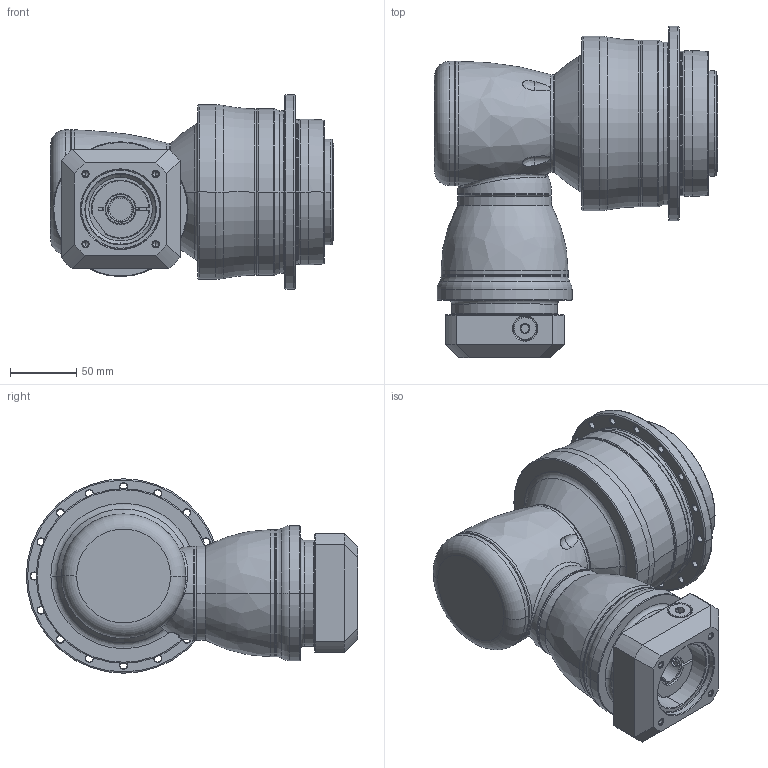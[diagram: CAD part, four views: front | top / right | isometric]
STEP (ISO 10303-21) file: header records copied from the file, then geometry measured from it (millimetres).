
FILE_DESCRIPTION((''),'2;1');
FILE_NAME('APK110_3ST_19-P0409400201_ASM','2018-07-05T',('D00080'),(''),'PRO/ENGINEER BY PARAMETRIC TECHNOLOGY CORPORATION, 2008170','PRO/ENGINEER BY PARAMETRIC TECHNOLOGY CORPORATION, 2008170','');
FILE_SCHEMA(('CONFIG_CONTROL_DESIGN'));
Length unit declared in the file: millimetre
Products named in the file (13): P1008300002; P1832400001; P0278401003; P0359401103; P1211400001; P1315300001; P1007301001; P1318310201; P0503400006; P0129302001; P0409400201; 21711412017; APK110_3ST_19-P0409400201_ASM
Assembly tree (12 placements, depth 2):
  APK110_3ST_19-P0409400201_ASM
    P1008300002
    P1832400001
    P0278401003
    P0359401103
    P1211400001
    P1315300001
    P1007301001
    P1318310201
    P0503400006
    P0129302001
    P0409400201
    21711412017
Bounding box: 214 x 250.5 x 147 mm (x, y, z)
Volume: 2627342 mm3; surface area: 349055.2 mm2
Topology: 13 solids, 34 shells, 702 faces, 1597 edges, 961 vertices
Faces by surface type: cylinder 281, cone 180, plane 126, torus 84, bspline 29, sphere 2
Entity records: 23270 total; most frequent: CARTESIAN_POINT 7014, DIRECTION 3730, ORIENTED_EDGE 3012, AXIS2_PLACEMENT_3D 1605, EDGE_CURVE 1549, VERTEX_POINT 955, CIRCLE 897, EDGE_LOOP 830
